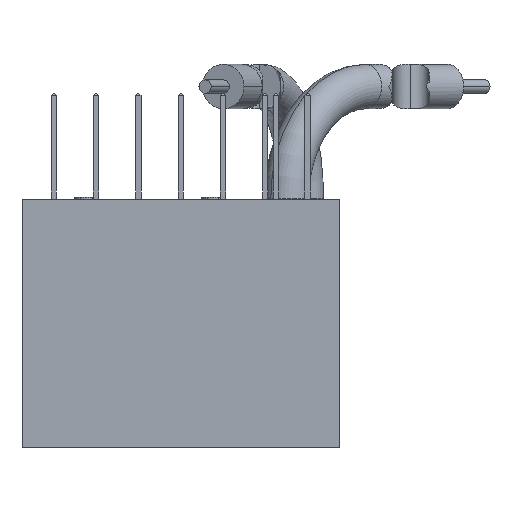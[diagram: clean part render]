
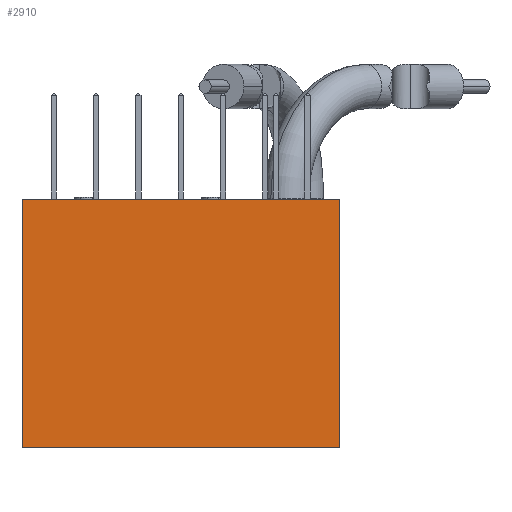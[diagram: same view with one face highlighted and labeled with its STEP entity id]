
A CAD part, left-side view. The second image highlights one B-rep face of the part: STEP entity #2910.
In plain terms, the highlighted planar face has unit normal (-1, 0, 0) as drawn and (1, 0, 0) by its records, which use the part's own axes.
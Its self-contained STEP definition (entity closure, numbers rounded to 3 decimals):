
#2847=CARTESIAN_POINT('',(3.215,0.75,0.8));
#2848=VERTEX_POINT('',#2847);
#2855=CARTESIAN_POINT('',(3.215,0.75,-0.375));
#2856=VERTEX_POINT('',#2855);
#2857=CARTESIAN_POINT('',(3.215,0.75,-0.375));
#2858=DIRECTION('',(0.0,0.0,1.0));
#2859=VECTOR('',#2858,1.175);
#2860=LINE('',#2857,#2859);
#2861=EDGE_CURVE('',#2856,#2848,#2860,.T.);
#2880=CARTESIAN_POINT('',(3.215,0.75,-0.375));
#2881=DIRECTION('',(1.0,0.0,0.0));
#2882=DIRECTION('',(0.0,0.0,-1.0));
#2883=AXIS2_PLACEMENT_3D('',#2880,#2881,#2882);
#2884=PLANE('',#2883);
#2885=CARTESIAN_POINT('',(3.215,-0.75,0.8));
#2886=VERTEX_POINT('',#2885);
#2887=CARTESIAN_POINT('',(3.215,0.75,0.8));
#2888=DIRECTION('',(0.0,-1.0,0.0));
#2889=VECTOR('',#2888,1.5);
#2890=LINE('',#2887,#2889);
#2891=EDGE_CURVE('',#2848,#2886,#2890,.T.);
#2892=ORIENTED_EDGE('',*,*,#2891,.T.);
#2893=CARTESIAN_POINT('',(3.215,-0.75,-0.375));
#2894=VERTEX_POINT('',#2893);
#2895=CARTESIAN_POINT('',(3.215,-0.75,-0.375));
#2896=DIRECTION('',(0.0,0.0,1.0));
#2897=VECTOR('',#2896,1.175);
#2898=LINE('',#2895,#2897);
#2899=EDGE_CURVE('',#2894,#2886,#2898,.T.);
#2900=ORIENTED_EDGE('',*,*,#2899,.F.);
#2901=CARTESIAN_POINT('',(3.215,0.75,-0.375));
#2902=DIRECTION('',(0.0,-1.0,0.0));
#2903=VECTOR('',#2902,1.5);
#2904=LINE('',#2901,#2903);
#2905=EDGE_CURVE('',#2856,#2894,#2904,.T.);
#2906=ORIENTED_EDGE('',*,*,#2905,.F.);
#2907=ORIENTED_EDGE('',*,*,#2861,.T.);
#2908=EDGE_LOOP('',(#2892,#2900,#2906,#2907));
#2909=FACE_OUTER_BOUND('',#2908,.T.);
#2910=ADVANCED_FACE('',(#2909),#2884,.T.);
